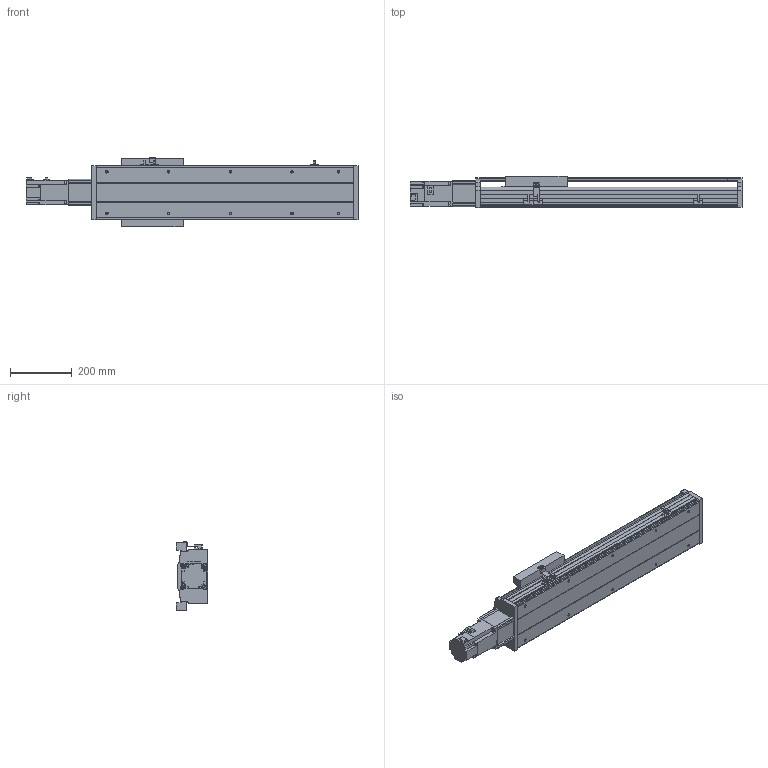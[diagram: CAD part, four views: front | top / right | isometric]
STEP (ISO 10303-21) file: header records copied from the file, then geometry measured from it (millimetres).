
FILE_DESCRIPTION(/* description */ ('STEP AP214'),/* implementation_level */ '2;1');
FILE_NAME(/* name */ 'PSS200-L10-S500-BC-T75-C1-N(0)',/* time_stamp */ '2022-06-06T04:34:02+02:00',/* author */ ('License CC BY-ND 4.0'),/* organization */ ('CADENAS'),/* preprocessor_version */ 'ST-DEVELOPER v18.102',/* originating_system */ 'PARTsolutions',/* authorisation */ ' ');
FILE_SCHEMA (('AUTOMOTIVE_DESIGN {1 0 10303 214 3 1 1}'));
Length unit declared in the file: millimetre
Products named in the file (8): PSS200-L10-S500-BC-T75-C1-N(0); PSS200-S500-BC-N_S; T75-p1; PSS200BC-N_h; PSS200-N_sensor; PSS200-BC-C1-N_sl; PSS200-N_Q; PSS200-S500-BC-C1-N_body
Assembly tree (9 placements, depth 2):
  PSS200-L10-S500-BC-T75-C1-N(0)
    PSS200-S500-BC-N_S
    T75-p1
    PSS200BC-N_h
    PSS200-N_sensor  x3
    PSS200-BC-C1-N_sl
    PSS200-N_Q
    PSS200-S500-BC-C1-N_body
Bounding box: 1076.3 x 101.5 x 223.86 mm (x, y, z)
Volume: 6371481.7 mm3; surface area: 1516370.4 mm2
Topology: 9 solids, 9 shells, 573 faces, 1531 edges, 1016 vertices
Faces by surface type: plane 439, cylinder 116, cone 18
Full cylindrical faces by diameter (mm): 4 x2, 4.5 x4, 6 x11, 6.647 x14, 8 x8, 10 x6, 25 x1, 67 x1, 70 x1
Entity records: 15950 total; most frequent: CARTESIAN_POINT 2764, DIRECTION 2621, ORIENTED_EDGE 2618, EDGE_CURVE 1309, LINE 1051, VECTOR 1051, VERTEX_POINT 908, AXIS2_PLACEMENT_3D 785
